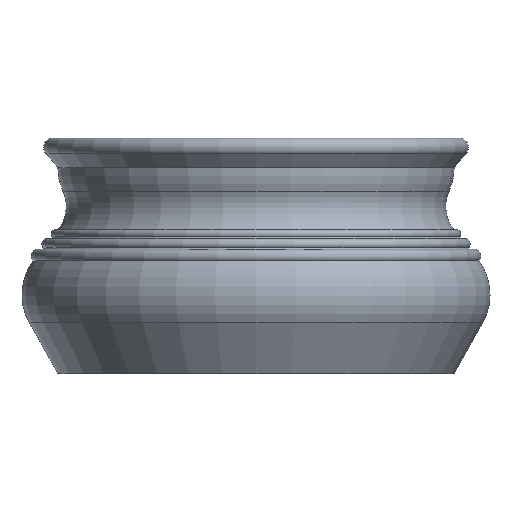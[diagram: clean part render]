
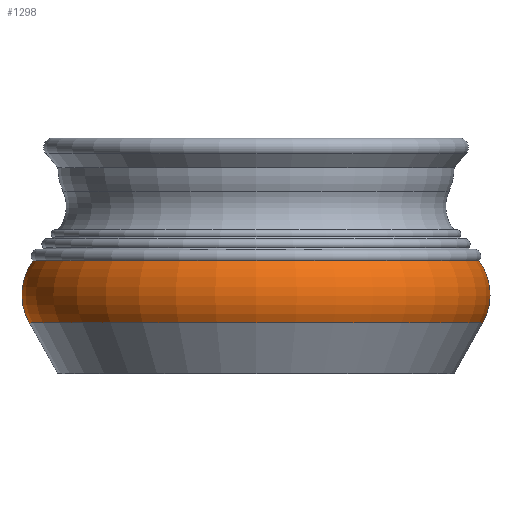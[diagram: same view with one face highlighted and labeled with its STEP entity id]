
A CAD part, front view. The second image highlights one B-rep face of the part: STEP entity #1298.
In plain terms, the highlighted toroidal (fillet/blend) face has major radius 93.45 mm and minor radius 30.55 mm.
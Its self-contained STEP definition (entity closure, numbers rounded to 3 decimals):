
#22=TOROIDAL_SURFACE('',#1475,93.45,30.55);
#164=FACE_OUTER_BOUND('',#280,.T.);
#280=EDGE_LOOP('',(#1187,#1188,#1189,#1190));
#517=CIRCLE('',#1439,120.128);
#539=CIRCLE('',#1476,118.152);
#540=CIRCLE('',#1477,30.55);
#642=VERTEX_POINT('',#2198);
#657=VERTEX_POINT('',#2257);
#805=EDGE_CURVE('',#642,#642,#517,.T.);
#834=EDGE_CURVE('',#657,#657,#539,.T.);
#835=EDGE_CURVE('',#657,#642,#540,.T.);
#1187=ORIENTED_EDGE('',*,*,#834,.F.);
#1188=ORIENTED_EDGE('',*,*,#835,.T.);
#1189=ORIENTED_EDGE('',*,*,#805,.T.);
#1190=ORIENTED_EDGE('',*,*,#835,.F.);
#1298=ADVANCED_FACE('',(#164),#22,.T.);
#1439=AXIS2_PLACEMENT_3D('',#2199,#1805,#1806);
#1475=AXIS2_PLACEMENT_3D('',#2256,#1884,#1885);
#1476=AXIS2_PLACEMENT_3D('',#2258,#1886,#1887);
#1477=AXIS2_PLACEMENT_3D('',#2259,#1888,#1889);
#1805=DIRECTION('center_axis',(0.,0.,1.));
#1806=DIRECTION('ref_axis',(1.,0.,0.));
#1884=DIRECTION('center_axis',(0.,0.,1.));
#1885=DIRECTION('ref_axis',(1.,0.,0.));
#1886=DIRECTION('center_axis',(0.,0.,1.));
#1887=DIRECTION('ref_axis',(1.,0.,0.));
#1888=DIRECTION('center_axis',(0.,-1.,0.));
#1889=DIRECTION('ref_axis',(-1.,0.,0.));
#2198=CARTESIAN_POINT('',(-120.128,0.,27.115));
#2199=CARTESIAN_POINT('Origin',(0.,0.,27.115));
#2256=CARTESIAN_POINT('Origin',(0.,0.,42.));
#2257=CARTESIAN_POINT('',(-118.152,0.,59.976));
#2258=CARTESIAN_POINT('Origin',(0.,0.,59.976));
#2259=CARTESIAN_POINT('Origin',(-93.45,0.,
42.));
